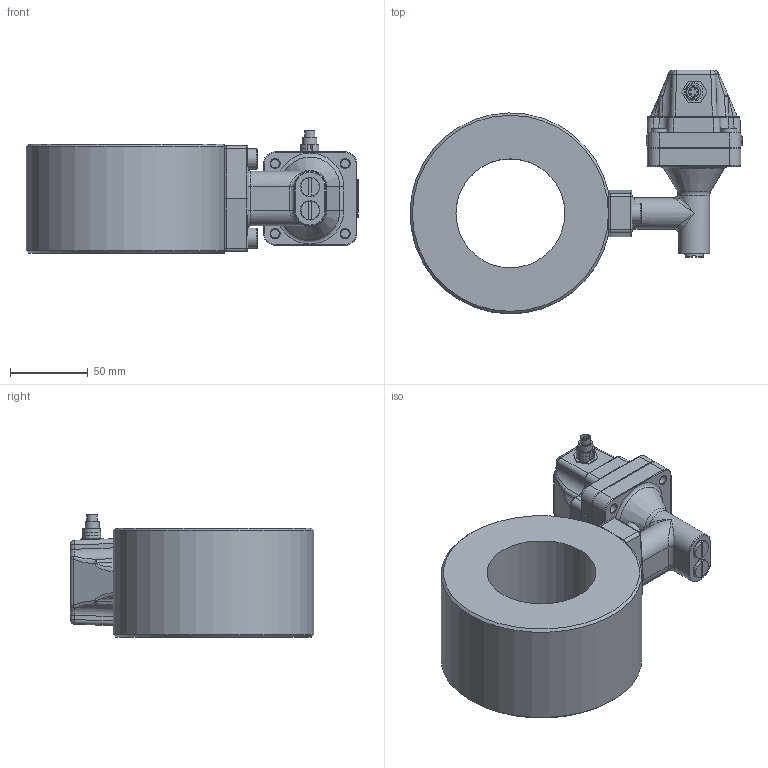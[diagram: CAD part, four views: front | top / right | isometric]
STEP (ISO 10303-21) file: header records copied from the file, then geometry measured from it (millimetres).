
FILE_DESCRIPTION(/* description */ ('Alibre Inc.'),/* implementation_level */ '2;1');
FILE_NAME(/* name */ 'export0',/* time_stamp */ '2012-11-14T15:44:56+01:00',/* author */ (''),/* organization */ (''),/* preprocessor_version */ 'ST-DEVELOPER v14',/* originating_system */ 'Alibre',/* authorisation */ '');
FILE_SCHEMA (('CONFIG_CONTROL_DESIGN'));
Length unit declared in the file: centimetre
Products named in the file (9): ID_1; ID_2; ID_3; ID_4; ID_5; ID_6; ID_7
Bounding box: 213.25 x 156.48 x 78.5 mm (x, y, z)
Volume: 813941.4 mm3; surface area: 125919.7 mm2
Topology: 13 solids, 14 shells, 843 faces, 1839 edges, 1060 vertices
Faces by surface type: plane 268, cylinder 261, bspline 132, cone 92, torus 52, sphere 38
Full cylindrical faces by diameter (mm): 0.75 x5, 3.198 x4, 6 x16, 6.2 x1, 6.4 x4, 6.7 x1, 8 x4, 8.5 x2, 8.7 x2, 8.9 x1, 9.6 x4, 10 x4, 11 x4, 11.75 x2, 12 x2, 13 x2, 14 x2, 17.2 x2, 21.1 x2, 32 x1, 47 x1, 70 x1
Entity records: 45174 total; most frequent: CARTESIAN_POINT 29426, ORIENTED_EDGE 2978, DIRECTION 2907, EDGE_CURVE 1489, AXIS2_PLACEMENT_3D 1307, VERTEX_POINT 911, EDGE_LOOP 892, FACE_BOUND 892
